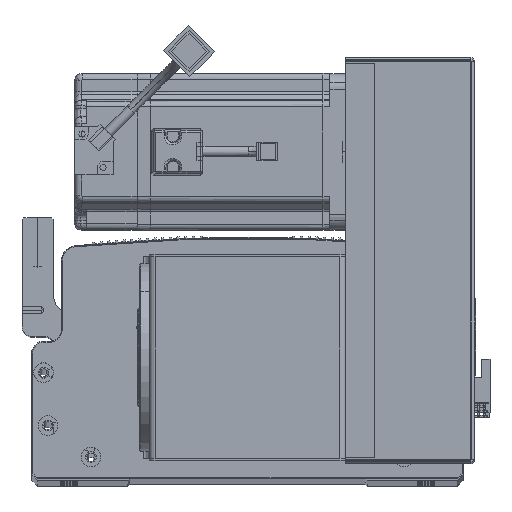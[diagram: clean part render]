
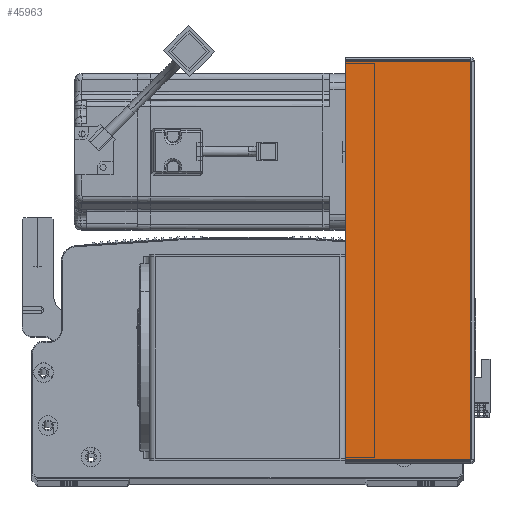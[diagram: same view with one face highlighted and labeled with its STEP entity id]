
A CAD part, top view. The second image highlights one B-rep face of the part: STEP entity #45963.
In plain terms, the highlighted planar face has unit normal (0, 0, 1) as drawn and (0, -1, 0) by its records, which use the part's own axes.
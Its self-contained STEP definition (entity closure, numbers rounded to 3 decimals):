
#707 = CARTESIAN_POINT ( 'NONE',  ( 0., -1.5, -203.293 ) ) ;
#3449 = CARTESIAN_POINT ( 'NONE',  ( 64.5, -1.5, 0. ) ) ;
#3877 = CARTESIAN_POINT ( 'NONE',  ( 0., -1.5, 0. ) ) ;
#5271 = ORIENTED_EDGE ( 'NONE', *, *, #20865, .F. ) ;
#8009 = ORIENTED_EDGE ( 'NONE', *, *, #36319, .T. ) ;
#12011 = DIRECTION ( 'NONE',  ( -1., 0., 0. ) ) ;
#12827 = DIRECTION ( 'NONE',  ( 0., 0., 1. ) ) ;
#13997 = CARTESIAN_POINT ( 'NONE',  ( 0.737, -1.5, 0. ) ) ;
#19484 = DIRECTION ( 'NONE',  ( 0., 0., 1. ) ) ;
#20865 = EDGE_CURVE ( 'NONE', #45023, #70573, #70029, .T. ) ;
#27595 = FACE_OUTER_BOUND ( 'NONE', #84799, .T. ) ;
#32671 = CARTESIAN_POINT ( 'NONE',  ( 0., -1.5, -0.707 ) ) ;
#36319 = EDGE_CURVE ( 'NONE', #69702, #88836, #77619, .T. ) ;
#37675 = CARTESIAN_POINT ( 'NONE',  ( 64.5, -1.5, -0.707 ) ) ;
#39686 = PLANE ( 'NONE',  #84503 ) ;
#41218 = EDGE_CURVE ( 'NONE', #88836, #70573, #62706, .T. ) ;
#43389 = CARTESIAN_POINT ( 'NONE',  ( 0.737, -1.5, -203.293 ) ) ;
#45023 = VERTEX_POINT ( 'NONE', #77571 ) ;
#45963 = ADVANCED_FACE ( 'NONE', ( #27595 ), #39686, .F. ) ;
#45964 = ORIENTED_EDGE ( 'NONE', *, *, #41218, .T. ) ;
#56220 = DIRECTION ( 'NONE',  ( 1., 0., 0. ) ) ;
#60770 = LINE ( 'NONE', #13997, #69497 ) ;
#62706 = LINE ( 'NONE', #3449, #63773 ) ;
#63773 = VECTOR ( 'NONE', #19484, 1000. ) ;
#68896 = VECTOR ( 'NONE', #56220, 1000. ) ;
#68921 = ORIENTED_EDGE ( 'NONE', *, *, #85437, .F. ) ;
#69497 = VECTOR ( 'NONE', #12827, 1000. ) ;
#69702 = VERTEX_POINT ( 'NONE', #43389 ) ;
#70029 = LINE ( 'NONE', #32671, #86289 ) ;
#70573 = VERTEX_POINT ( 'NONE', #37675 ) ;
#77571 = CARTESIAN_POINT ( 'NONE',  ( 0.737, -1.5, -0.707 ) ) ;
#77619 = LINE ( 'NONE', #707, #68896 ) ;
#81220 = DIRECTION ( 'NONE',  ( 1., 0., 0. ) ) ;
#84503 = AXIS2_PLACEMENT_3D ( 'NONE', #3877, #87285, #12011 ) ;
#84799 = EDGE_LOOP ( 'NONE', ( #68921, #8009, #45964, #5271 ) ) ;
#85437 = EDGE_CURVE ( 'NONE', #69702, #45023, #60770, .T. ) ;
#86289 = VECTOR ( 'NONE', #81220, 1000. ) ;
#86999 = CARTESIAN_POINT ( 'NONE',  ( 64.5, -1.5, -203.293 ) ) ;
#87285 = DIRECTION ( 'NONE',  ( 0., 1., 0. ) ) ;
#88836 = VERTEX_POINT ( 'NONE', #86999 ) ;
